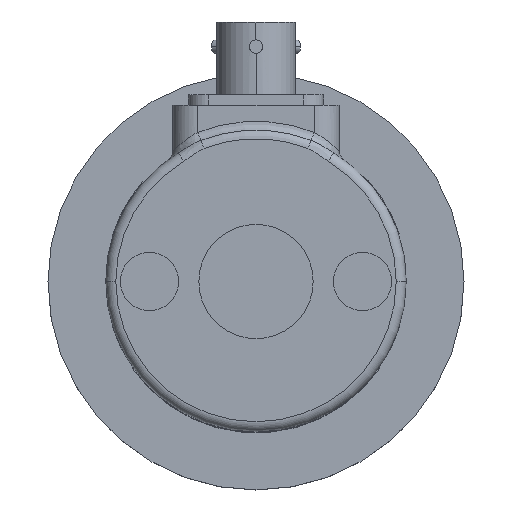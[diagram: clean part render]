
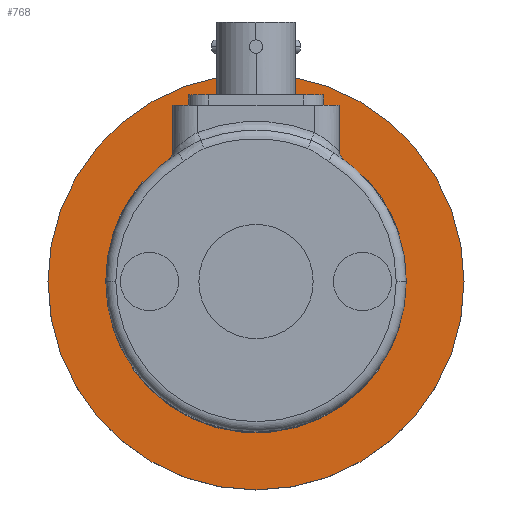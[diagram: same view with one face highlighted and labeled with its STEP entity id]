
A CAD part, top view. The second image highlights one B-rep face of the part: STEP entity #768.
In plain terms, the highlighted planar face has unit normal (0, 0, 1).
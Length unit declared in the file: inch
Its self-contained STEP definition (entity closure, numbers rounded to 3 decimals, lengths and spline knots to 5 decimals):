
#14 = VERTEX_POINT ( 'NONE', #893 ) ;
#16 = EDGE_CURVE ( 'NONE', #17, #14, #892, .T. ) ;
#17 = VERTEX_POINT ( 'NONE', #887 ) ;
#233 = EDGE_CURVE ( 'NONE', #235, #236, #1620, .T. ) ;
#235 = VERTEX_POINT ( 'NONE', #1615 ) ;
#236 = VERTEX_POINT ( 'NONE', #1614 ) ;
#373 = VERTEX_POINT ( 'NONE', #1824 ) ;
#375 = EDGE_CURVE ( 'NONE', #373, #376, #1823, .T. ) ;
#376 = VERTEX_POINT ( 'NONE', #1818 ) ;
#393 = VERTEX_POINT ( 'NONE', #1930 ) ;
#395 = EDGE_CURVE ( 'NONE', #393, #396, #1929, .T. ) ;
#396 = VERTEX_POINT ( 'NONE', #1924 ) ;
#466 = EDGE_CURVE ( 'NONE', #467, #468, #1904, .T. ) ;
#467 = VERTEX_POINT ( 'NONE', #1899 ) ;
#468 = VERTEX_POINT ( 'NONE', #1898 ) ;
#538 = VERTEX_POINT ( 'NONE', #2098 ) ;
#552 = EDGE_CURVE ( 'NONE', #393, #710, #2162, .T. ) ;
#561 = EDGE_CURVE ( 'NONE', #562, #376, #2244, .T. ) ;
#562 = VERTEX_POINT ( 'NONE', #2240 ) ;
#584 = EDGE_CURVE ( 'NONE', #236, #585, #2331, .T. ) ;
#585 = VERTEX_POINT ( 'NONE', #2315 ) ;
#600 = EDGE_CURVE ( 'NONE', #538, #373, #2408, .T. ) ;
#701 = EDGE_CURVE ( 'NONE', #702, #396, #2703, .T. ) ;
#702 = VERTEX_POINT ( 'NONE', #2699 ) ;
#710 = VERTEX_POINT ( 'NONE', #2647 ) ;
#714 = ORIENTED_EDGE ( 'NONE', *, *, #233, .F. ) ;
#715 = ORIENTED_EDGE ( 'NONE', *, *, #16, .T. ) ;
#716 = ORIENTED_EDGE ( 'NONE', *, *, #767, .T. ) ;
#718 = ORIENTED_EDGE ( 'NONE', *, *, #741, .T. ) ;
#719 = ORIENTED_EDGE ( 'NONE', *, *, #701, .T. ) ;
#720 = ORIENTED_EDGE ( 'NONE', *, *, #395, .F. ) ;
#721 = ORIENTED_EDGE ( 'NONE', *, *, #552, .T. ) ;
#722 = ORIENTED_EDGE ( 'NONE', *, *, #730, .T. ) ;
#723 = ORIENTED_EDGE ( 'NONE', *, *, #561, .T. ) ;
#724 = ORIENTED_EDGE ( 'NONE', *, *, #375, .F. ) ;
#725 = ORIENTED_EDGE ( 'NONE', *, *, #600, .F. ) ;
#730 = EDGE_CURVE ( 'NONE', #710, #562, #2685, .T. ) ;
#741 = EDGE_CURVE ( 'NONE', #742, #702, #2442, .T. ) ;
#742 = VERTEX_POINT ( 'NONE', #2437 ) ;
#760 = EDGE_CURVE ( 'NONE', #538, #467, #2831, .T. ) ;
#767 = EDGE_CURVE ( 'NONE', #14, #17, #2888, .T. ) ;
#768 = ADVANCED_FACE ( 'NONE', ( #2883, #2882 ), #2877, .F. ) ;
#769 = EDGE_LOOP ( 'NONE', ( #770, #718, #719, #720, #721, #722, #723, #724, #725, #808, #809, #810, #811, #714 ) ) ;
#770 = ORIENTED_EDGE ( 'NONE', *, *, #784, .T. ) ;
#784 = EDGE_CURVE ( 'NONE', #235, #742, #2912, .T. ) ;
#796 = EDGE_CURVE ( 'NONE', #468, #585, #2892, .T. ) ;
#808 = ORIENTED_EDGE ( 'NONE', *, *, #760, .T. ) ;
#809 = ORIENTED_EDGE ( 'NONE', *, *, #466, .T. ) ;
#810 = ORIENTED_EDGE ( 'NONE', *, *, #796, .T. ) ;
#811 = ORIENTED_EDGE ( 'NONE', *, *, #584, .F. ) ;
#812 = EDGE_LOOP ( 'NONE', ( #715, #716 ) ) ;
#887 = CARTESIAN_POINT ( 'NONE',  ( 1.25, 0., -1.18 ) ) ;
#888 = DIRECTION ( 'NONE',  ( 1., 0., 0. ) ) ;
#889 = DIRECTION ( 'NONE',  ( 0., 0., 1. ) ) ;
#890 = CARTESIAN_POINT ( 'NONE',  ( 0., 0., -1.18 ) ) ;
#891 = AXIS2_PLACEMENT_3D ( 'NONE', #890, #889, #888 ) ;
#892 = CIRCLE ( 'NONE', #891, 1.25 ) ;
#893 = CARTESIAN_POINT ( 'NONE',  ( -1.25, 0., -1.18 ) ) ;
#1614 = CARTESIAN_POINT ( 'NONE',  ( -0.9025, 0., -1.18 ) ) ;
#1615 = CARTESIAN_POINT ( 'NONE',  ( -0.85907, 0.27659, -1.18 ) ) ;
#1616 = DIRECTION ( 'NONE',  ( 1., 0., 0. ) ) ;
#1617 = DIRECTION ( 'NONE',  ( 0., 0., 1. ) ) ;
#1618 = CARTESIAN_POINT ( 'NONE',  ( 0., 0., -1.18 ) ) ;
#1619 = AXIS2_PLACEMENT_3D ( 'NONE', #1618, #1617, #1616 ) ;
#1620 = CIRCLE ( 'NONE', #1619, 0.9025 ) ;
#1818 = CARTESIAN_POINT ( 'NONE',  ( 0.85588, 0.2863, -1.18 ) ) ;
#1819 = DIRECTION ( 'NONE',  ( 1., 0., 0. ) ) ;
#1820 = DIRECTION ( 'NONE',  ( 0., 0., 1. ) ) ;
#1821 = CARTESIAN_POINT ( 'NONE',  ( 0., 0., -1.18 ) ) ;
#1822 = AXIS2_PLACEMENT_3D ( 'NONE', #1821, #1820, #1819 ) ;
#1823 = CIRCLE ( 'NONE', #1822, 0.9025 ) ;
#1824 = CARTESIAN_POINT ( 'NONE',  ( 0.9025, 0., -1.18 ) ) ;
#1898 = CARTESIAN_POINT ( 'NONE',  ( -0.74338, -0.52052, -1.18 ) ) ;
#1899 = CARTESIAN_POINT ( 'NONE',  ( 0.74338, -0.52052, -1.18 ) ) ;
#1900 = DIRECTION ( 'NONE',  ( -1., 0., 0. ) ) ;
#1901 = DIRECTION ( 'NONE',  ( 0., 0., -1. ) ) ;
#1902 = CARTESIAN_POINT ( 'NONE',  ( 0., 0., -1.18 ) ) ;
#1903 = AXIS2_PLACEMENT_3D ( 'NONE', #1902, #1901, #1900 ) ;
#1904 = CIRCLE ( 'NONE', #1903, 0.9075 ) ;
#1924 = CARTESIAN_POINT ( 'NONE',  ( -0.67588, 0.59807, -1.18 ) ) ;
#1925 = DIRECTION ( 'NONE',  ( 1., 0., 0. ) ) ;
#1926 = DIRECTION ( 'NONE',  ( 0., 0., 1. ) ) ;
#1927 = CARTESIAN_POINT ( 'NONE',  ( 0., 0., -1.18 ) ) ;
#1928 = AXIS2_PLACEMENT_3D ( 'NONE', #1927, #1926, #1925 ) ;
#1929 = CIRCLE ( 'NONE', #1928, 0.9025 ) ;
#1930 = CARTESIAN_POINT ( 'NONE',  ( 0.66907, 0.60568, -1.18 ) ) ;
#2098 = CARTESIAN_POINT ( 'NONE',  ( 0.73928, -0.51765, -1.18 ) ) ;
#2159 = DIRECTION ( 'NONE',  ( 0.866, 0.5, 0. ) ) ;
#2160 = VECTOR ( 'NONE', #2159, 39.37008 ) ;
#2161 = CARTESIAN_POINT ( 'NONE',  ( 0.6735, 0.60824, -1.18 ) ) ;
#2162 = LINE ( 'NONE', #2161, #2160 ) ;
#2240 = CARTESIAN_POINT ( 'NONE',  ( 0.8603, 0.28885, -1.18 ) ) ;
#2241 = DIRECTION ( 'NONE',  ( -0.866, -0.5, 0. ) ) ;
#2242 = VECTOR ( 'NONE', #2241, 39.37008 ) ;
#2243 = CARTESIAN_POINT ( 'NONE',  ( 0.85588, 0.2863, -1.18 ) ) ;
#2244 = LINE ( 'NONE', #2243, #2242 ) ;
#2315 = CARTESIAN_POINT ( 'NONE',  ( -0.73928, -0.51765, -1.18 ) ) ;
#2316 = DIRECTION ( 'NONE',  ( 1., 0., 0. ) ) ;
#2317 = DIRECTION ( 'NONE',  ( 0., 0., 1. ) ) ;
#2318 = AXIS2_PLACEMENT_3D ( 'NONE', #2330, #2317, #2316 ) ;
#2330 = CARTESIAN_POINT ( 'NONE',  ( 0., 0., -1.18 ) ) ;
#2331 = CIRCLE ( 'NONE', #2318, 0.9025 ) ;
#2404 = DIRECTION ( 'NONE',  ( 1., 0., 0. ) ) ;
#2405 = DIRECTION ( 'NONE',  ( 0., 0., 1. ) ) ;
#2406 = CARTESIAN_POINT ( 'NONE',  ( 0., 0., -1.18 ) ) ;
#2407 = AXIS2_PLACEMENT_3D ( 'NONE', #2406, #2405, #2404 ) ;
#2408 = CIRCLE ( 'NONE', #2407, 0.9025 ) ;
#2437 = CARTESIAN_POINT ( 'NONE',  ( -0.8635, 0.27915, -1.18 ) ) ;
#2438 = DIRECTION ( 'NONE',  ( -1., 0., 0. ) ) ;
#2439 = DIRECTION ( 'NONE',  ( 0., 0., -1. ) ) ;
#2440 = CARTESIAN_POINT ( 'NONE',  ( 0., 0., -1.18 ) ) ;
#2441 = AXIS2_PLACEMENT_3D ( 'NONE', #2440, #2439, #2438 ) ;
#2442 = CIRCLE ( 'NONE', #2441, 0.9075 ) ;
#2647 = CARTESIAN_POINT ( 'NONE',  ( 0.6735, 0.60824, -1.18 ) ) ;
#2681 = DIRECTION ( 'NONE',  ( -1., 0., 0. ) ) ;
#2682 = DIRECTION ( 'NONE',  ( 0., 0., -1. ) ) ;
#2683 = CARTESIAN_POINT ( 'NONE',  ( 0., 0., -1.18 ) ) ;
#2684 = AXIS2_PLACEMENT_3D ( 'NONE', #2683, #2682, #2681 ) ;
#2685 = CIRCLE ( 'NONE', #2684, 0.9075 ) ;
#2699 = CARTESIAN_POINT ( 'NONE',  ( -0.6803, 0.60062, -1.18 ) ) ;
#2700 = DIRECTION ( 'NONE',  ( 0.866, -0.5, 0. ) ) ;
#2701 = VECTOR ( 'NONE', #2700, 39.37008 ) ;
#2702 = CARTESIAN_POINT ( 'NONE',  ( -0.67588, 0.59807, -1.18 ) ) ;
#2703 = LINE ( 'NONE', #2702, #2701 ) ;
#2828 = DIRECTION ( 'NONE',  ( 0.819, -0.574, 0. ) ) ;
#2829 = VECTOR ( 'NONE', #2828, 39.37008 ) ;
#2830 = CARTESIAN_POINT ( 'NONE',  ( 0.73928, -0.51765, -1.18 ) ) ;
#2831 = LINE ( 'NONE', #2830, #2829 ) ;
#2873 = DIRECTION ( 'NONE',  ( -1., 0., 0. ) ) ;
#2874 = DIRECTION ( 'NONE',  ( 0., 0., -1. ) ) ;
#2875 = CARTESIAN_POINT ( 'NONE',  ( 0., 0., -1.18 ) ) ;
#2876 = AXIS2_PLACEMENT_3D ( 'NONE', #2875, #2874, #2873 ) ;
#2877 = PLANE ( 'NONE',  #2876 ) ;
#2882 = FACE_OUTER_BOUND ( 'NONE', #812, .T. ) ;
#2883 = FACE_BOUND ( 'NONE', #769, .T. ) ;
#2884 = DIRECTION ( 'NONE',  ( 1., 0., 0. ) ) ;
#2885 = DIRECTION ( 'NONE',  ( 0., 0., 1. ) ) ;
#2886 = CARTESIAN_POINT ( 'NONE',  ( 0., 0., -1.18 ) ) ;
#2887 = AXIS2_PLACEMENT_3D ( 'NONE', #2886, #2885, #2884 ) ;
#2888 = CIRCLE ( 'NONE', #2887, 1.25 ) ;
#2889 = DIRECTION ( 'NONE',  ( 0.819, 0.574, 0. ) ) ;
#2890 = VECTOR ( 'NONE', #2889, 39.37008 ) ;
#2891 = CARTESIAN_POINT ( 'NONE',  ( -0.73928, -0.51765, -1.18 ) ) ;
#2892 = LINE ( 'NONE', #2891, #2890 ) ;
#2909 = DIRECTION ( 'NONE',  ( -0.866, 0.5, 0. ) ) ;
#2910 = VECTOR ( 'NONE', #2909, 39.37008 ) ;
#2911 = CARTESIAN_POINT ( 'NONE',  ( -0.85907, 0.27659, -1.18 ) ) ;
#2912 = LINE ( 'NONE', #2911, #2910 ) ;
